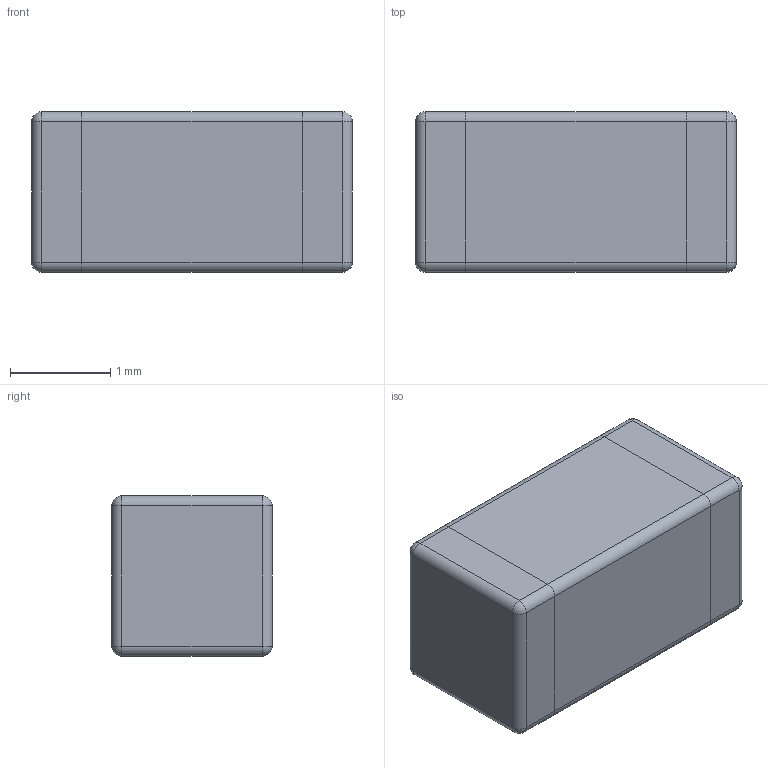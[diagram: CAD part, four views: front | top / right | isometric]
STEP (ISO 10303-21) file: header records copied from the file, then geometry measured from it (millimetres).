
FILE_DESCRIPTION(('FreeCAD Model'),'2;1');
FILE_NAME('Open CASCADE Shape Model','2022-02-08T11:14:03',(''),(''), 'Open CASCADE STEP processor 7.5','FreeCAD','Unknown');
FILE_SCHEMA(('AUTOMOTIVE_DESIGN { 1 0 10303 214 1 1 1 1 }'));
Length unit declared in the file: millimetre
Products named in the file (1): Fillet
Bounding box: 3.2 x 1.6 x 1.6 mm (x, y, z)
Volume: 8.1 mm3; surface area: 24.5 mm2
Topology: 1 solids, 1 shells, 42 faces, 88 edges, 40 vertices
Faces by surface type: cylinder 20, plane 14, sphere 8
Entity records: 2326 total; most frequent: CARTESIAN_POINT 371, DIRECTION 310, ORIENTED_EDGE 160, LINE 160, VECTOR 160, PCURVE 160, DEFINITIONAL_REPRESENTATION 160, EDGE_CURVE 80
